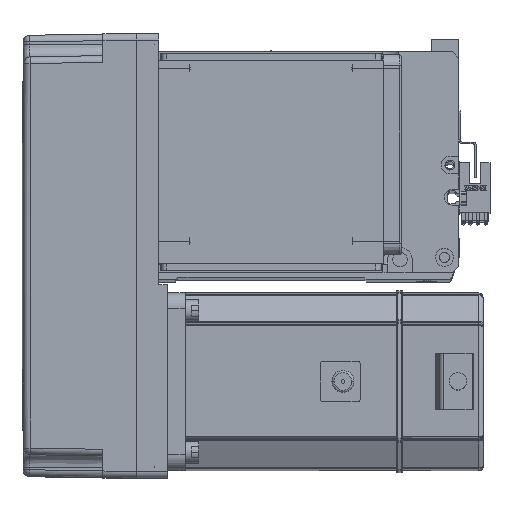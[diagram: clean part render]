
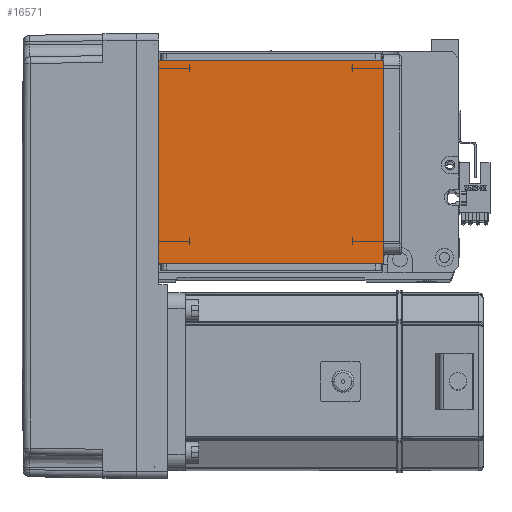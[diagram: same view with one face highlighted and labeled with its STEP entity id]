
A CAD part, top view. The second image highlights one B-rep face of the part: STEP entity #16571.
In plain terms, the highlighted planar face has unit normal (0, 0, 1).
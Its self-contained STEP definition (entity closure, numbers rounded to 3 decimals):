
#2716 = PLANE ( 'NONE',  #9402 ) ;
#3204 = CARTESIAN_POINT ( 'NONE',  ( -70.004, 20., 115. ) ) ;
#6452 = VECTOR ( 'NONE', #22842, 1000. ) ;
#9226 = ORIENTED_EDGE ( 'NONE', *, *, #46930, .F. ) ;
#9402 = AXIS2_PLACEMENT_3D ( 'NONE', #46554, #11546, #50905 ) ;
#9612 = VECTOR ( 'NONE', #27826, 1000. ) ;
#9817 = VERTEX_POINT ( 'NONE', #51249 ) ;
#11546 = DIRECTION ( 'NONE',  ( 0., 0., 1. ) ) ;
#12419 = EDGE_LOOP ( 'NONE', ( #41341, #36531, #9226, #37233 ) ) ;
#12713 = DIRECTION ( 'NONE',  ( 1., 0., 0. ) ) ;
#15519 = VERTEX_POINT ( 'NONE', #17275 ) ;
#16571 = ADVANCED_FACE ( 'NONE', ( #26587 ), #2716, .T. ) ;
#17275 = CARTESIAN_POINT ( 'NONE',  ( -50.5, 20., 115. ) ) ;
#21173 = LINE ( 'NONE', #27468, #9612 ) ;
#22842 = DIRECTION ( 'NONE',  ( 0., -1., 0. ) ) ;
#26358 = EDGE_CURVE ( 'NONE', #44187, #53136, #49179, .T. ) ;
#26587 = FACE_OUTER_BOUND ( 'NONE', #12419, .T. ) ;
#27468 = CARTESIAN_POINT ( 'NONE',  ( 50.5, 122., 115. ) ) ;
#27826 = DIRECTION ( 'NONE',  ( 0., 1., 0. ) ) ;
#28716 = VECTOR ( 'NONE', #12713, 1000. ) ;
#31756 = EDGE_CURVE ( 'NONE', #44187, #15519, #42534, .T. ) ;
#33418 = LINE ( 'NONE', #3204, #46371 ) ;
#36531 = ORIENTED_EDGE ( 'NONE', *, *, #31756, .T. ) ;
#37233 = ORIENTED_EDGE ( 'NONE', *, *, #37280, .T. ) ;
#37280 = EDGE_CURVE ( 'NONE', #9817, #53136, #21173, .T. ) ;
#38775 = CARTESIAN_POINT ( 'NONE',  ( -70.004, 111.5, 115. ) ) ;
#41341 = ORIENTED_EDGE ( 'NONE', *, *, #26358, .F. ) ;
#42534 = LINE ( 'NONE', #54078, #6452 ) ;
#44187 = VERTEX_POINT ( 'NONE', #47252 ) ;
#46371 = VECTOR ( 'NONE', #55037, 1000. ) ;
#46554 = CARTESIAN_POINT ( 'NONE',  ( 0., 0., 115. ) ) ;
#46930 = EDGE_CURVE ( 'NONE', #9817, #15519, #33418, .T. ) ;
#47252 = CARTESIAN_POINT ( 'NONE',  ( -50.5, 111.5, 115. ) ) ;
#49179 = LINE ( 'NONE', #38775, #28716 ) ;
#50905 = DIRECTION ( 'NONE',  ( 1., 0., 0. ) ) ;
#51249 = CARTESIAN_POINT ( 'NONE',  ( 50.5, 20., 115. ) ) ;
#53136 = VERTEX_POINT ( 'NONE', #54639 ) ;
#54078 = CARTESIAN_POINT ( 'NONE',  ( -50.5, 122., 115. ) ) ;
#54639 = CARTESIAN_POINT ( 'NONE',  ( 50.5, 111.5, 115. ) ) ;
#55037 = DIRECTION ( 'NONE',  ( -1., 0., 0. ) ) ;
